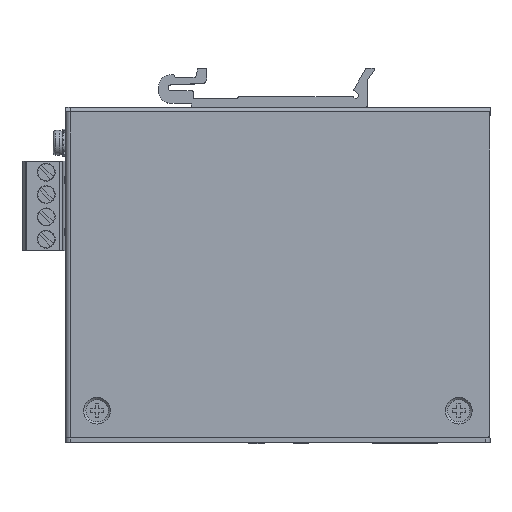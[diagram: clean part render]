
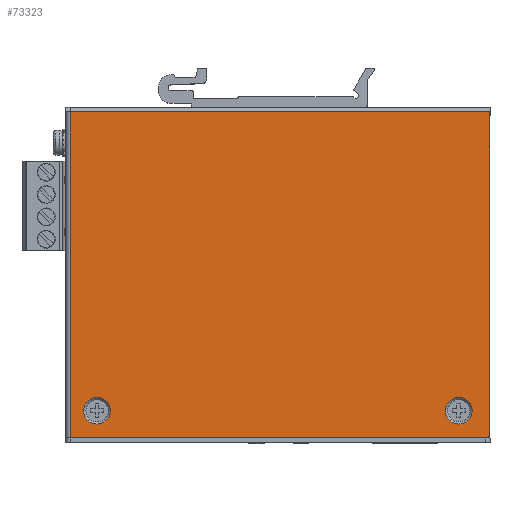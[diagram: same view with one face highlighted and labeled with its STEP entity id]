
A CAD part, top view. The second image highlights one B-rep face of the part: STEP entity #73323.
In plain terms, the highlighted planar face has unit normal (0, 0, 1).
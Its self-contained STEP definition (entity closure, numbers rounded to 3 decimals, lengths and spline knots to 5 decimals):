
#4827=CIRCLE('',#80727,0.001);
#4828=CIRCLE('',#80728,0.003);
#4829=CIRCLE('',#80729,0.003);
#24741=ORIENTED_EDGE('',*,*,#35490,.T.);
#24742=ORIENTED_EDGE('',*,*,#35491,.F.);
#24743=ORIENTED_EDGE('',*,*,#35492,.F.);
#24744=ORIENTED_EDGE('',*,*,#35493,.T.);
#24745=ORIENTED_EDGE('',*,*,#35494,.T.);
#24746=ORIENTED_EDGE('',*,*,#35495,.T.);
#24747=ORIENTED_EDGE('',*,*,#35496,.T.);
#35490=EDGE_CURVE('',#42800,#42801,#50813,.T.);
#35491=EDGE_CURVE('',#42802,#42801,#50814,.T.);
#35492=EDGE_CURVE('',#42803,#42802,#50815,.T.);
#35493=EDGE_CURVE('',#42803,#42804,#50816,.T.);
#35494=EDGE_CURVE('',#42804,#42800,#4827,.T.);
#35495=EDGE_CURVE('',#42805,#42805,#4828,.T.);
#35496=EDGE_CURVE('',#42806,#42806,#4829,.T.);
#42800=VERTEX_POINT('',#127671);
#42801=VERTEX_POINT('',#127672);
#42802=VERTEX_POINT('',#127674);
#42803=VERTEX_POINT('',#127676);
#42804=VERTEX_POINT('',#127678);
#42805=VERTEX_POINT('',#127681);
#42806=VERTEX_POINT('',#127683);
#50813=LINE('',#127670,#58778);
#50814=LINE('',#127673,#58779);
#50815=LINE('',#127675,#58780);
#50816=LINE('',#127677,#58781);
#58778=VECTOR('',#101031,1.);
#58779=VECTOR('',#101032,1.);
#58780=VECTOR('',#101033,1.);
#58781=VECTOR('',#101034,1.);
#62944=EDGE_LOOP('',(#24741,#24742,#24743,#24744,#24745));
#62945=EDGE_LOOP('',(#24746));
#62946=EDGE_LOOP('',(#24747));
#67110=FACE_BOUND('',#62944,.T.);
#67111=FACE_BOUND('',#62945,.T.);
#67112=FACE_BOUND('',#62946,.T.);
#69656=PLANE('',#80726);
#73323=ADVANCED_FACE('',(#67110,#67111,#67112),#69656,.T.);
#80726=AXIS2_PLACEMENT_3D('',#127669,#101029,#101030);
#80727=AXIS2_PLACEMENT_3D('',#127679,#101035,#101036);
#80728=AXIS2_PLACEMENT_3D('',#127680,#101037,#101038);
#80729=AXIS2_PLACEMENT_3D('',#127682,#101039,#101040);
#101029=DIRECTION('',(0.,0.,1.));
#101030=DIRECTION('',(0.,-1.,0.));
#101031=DIRECTION('',(0.,1.,0.));
#101032=DIRECTION('',(1.,0.,0.));
#101033=DIRECTION('',(0.,1.,0.));
#101034=DIRECTION('',(1.,0.,0.));
#101035=DIRECTION('',(0.,0.,1.));
#101036=DIRECTION('',(0.,-1.,0.));
#101037=DIRECTION('',(0.,0.,-1.));
#101038=DIRECTION('',(-1.,0.,0.));
#101039=DIRECTION('',(0.,0.,-1.));
#101040=DIRECTION('',(1.,0.,0.));
#127669=CARTESIAN_POINT('',(-0.0005,0.001,0.026));
#127670=CARTESIAN_POINT('',(0.047,-0.035,0.026));
#127671=CARTESIAN_POINT('',(0.047,-0.035,0.026));
#127672=CARTESIAN_POINT('',(0.047,0.037,0.026));
#127673=CARTESIAN_POINT('',(-0.047,0.037,0.026));
#127674=CARTESIAN_POINT('',(-0.047,0.037,0.026));
#127675=CARTESIAN_POINT('',(-0.047,-0.036,0.026));
#127676=CARTESIAN_POINT('',(-0.047,-0.036,0.026));
#127677=CARTESIAN_POINT('',(-0.047,-0.036,0.026));
#127678=CARTESIAN_POINT('',(0.046,-0.036,0.026));
#127679=CARTESIAN_POINT('',(0.046,-0.035,0.026));
#127680=CARTESIAN_POINT('',(0.04,-0.0299,0.026));
#127681=CARTESIAN_POINT('',(0.037,-0.0299,0.026));
#127682=CARTESIAN_POINT('',(-0.041,-0.0299,0.026));
#127683=CARTESIAN_POINT('',(-0.038,-0.0299,0.026));
